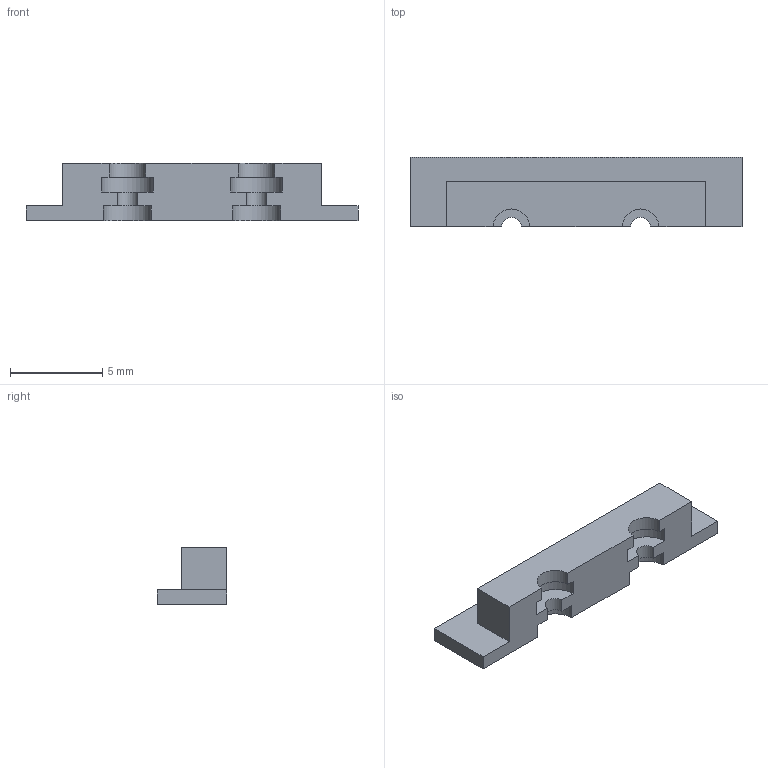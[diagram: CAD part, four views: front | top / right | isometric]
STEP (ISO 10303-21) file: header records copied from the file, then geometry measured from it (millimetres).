
FILE_DESCRIPTION(('Open CASCADE Model'),'2;1');
FILE_NAME('Open CASCADE Shape Model','2026-10-14T21:49:17',('Author'),( 'Open CASCADE'),'Open CASCADE STEP processor 7.9','Open CASCADE 7.9' ,'Unknown');
FILE_SCHEMA(('AUTOMOTIVE_DESIGN { 1 0 10303 214 1 1 1 1 }'));
Length unit declared in the file: millimetre
Products named in the file (1): Open CASCADE STEP translator 7.9 3
Bounding box: 18 x 3.75 x 3.1 mm (x, y, z)
Volume: 121.3 mm3; surface area: 256.6 mm2
Topology: 1 solids, 1 shells, 26 faces, 72 edges, 48 vertices
Faces by surface type: plane 18, cylinder 8
Entity records: 1716 total; most frequent: CARTESIAN_POINT 407, DIRECTION 200, ORIENTED_EDGE 144, PCURVE 144, DEFINITIONAL_REPRESENTATION 144, LINE 104, VECTOR 104, B_SPLINE_CURVE_WITH_KNOTS 80
